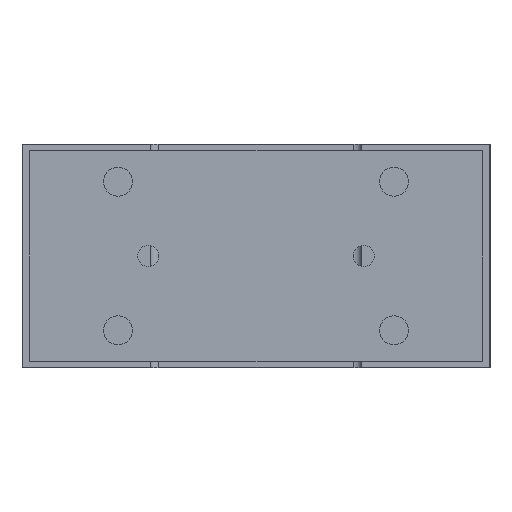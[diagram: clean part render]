
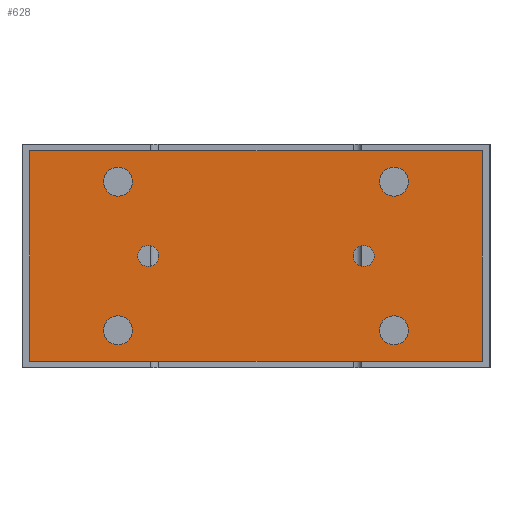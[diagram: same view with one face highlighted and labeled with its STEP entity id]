
A CAD part, left-side view. The second image highlights one B-rep face of the part: STEP entity #628.
In plain terms, the highlighted planar face has unit normal (-1, 0, 0).
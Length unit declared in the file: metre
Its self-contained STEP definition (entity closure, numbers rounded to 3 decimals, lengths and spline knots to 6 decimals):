
#628 = ADVANCED_FACE( '', ( #1398, #1399, #1400, #1401, #1402, #1403, #1404 ), #1405, .T. );
#1398 = FACE_BOUND( '', #2198, .T. );
#1399 = FACE_BOUND( '', #2199, .T. );
#1400 = FACE_BOUND( '', #2200, .T. );
#1401 = FACE_BOUND( '', #2201, .T. );
#1402 = FACE_BOUND( '', #2202, .T. );
#1403 = FACE_BOUND( '', #2203, .T. );
#1404 = FACE_OUTER_BOUND( '', #2204, .T. );
#1405 = PLANE( '', #2205 );
#2198 = EDGE_LOOP( '', ( #3689 ) );
#2199 = EDGE_LOOP( '', ( #3690 ) );
#2200 = EDGE_LOOP( '', ( #3691 ) );
#2201 = EDGE_LOOP( '', ( #3692 ) );
#2202 = EDGE_LOOP( '', ( #3693 ) );
#2203 = EDGE_LOOP( '', ( #3694 ) );
#2204 = EDGE_LOOP( '', ( #3695, #3696, #3697, #3698 ) );
#2205 = AXIS2_PLACEMENT_3D( '', #3699, #3700, #3701 );
#3689 = ORIENTED_EDGE( '', *, *, #4340, .F. );
#3690 = ORIENTED_EDGE( '', *, *, #4186, .F. );
#3691 = ORIENTED_EDGE( '', *, *, #3906, .F. );
#3692 = ORIENTED_EDGE( '', *, *, #4097, .F. );
#3693 = ORIENTED_EDGE( '', *, *, #4129, .F. );
#3694 = ORIENTED_EDGE( '', *, *, #4278, .T. );
#3695 = ORIENTED_EDGE( '', *, *, #4191, .T. );
#3696 = ORIENTED_EDGE( '', *, *, #4033, .T. );
#3697 = ORIENTED_EDGE( '', *, *, #4086, .T. );
#3698 = ORIENTED_EDGE( '', *, *, #4061, .T. );
#3699 = CARTESIAN_POINT( '', ( -0.118, -0.086, -0.0025 ) );
#3700 = DIRECTION( '', ( -1., 0., 0. ) );
#3701 = DIRECTION( '', ( 0., 0., 1. ) );
#3906 = EDGE_CURVE( '', #4542, #4542, #4543, .T. );
#4033 = EDGE_CURVE( '', #4748, #4746, #4749, .T. );
#4061 = EDGE_CURVE( '', #4792, #4790, #4793, .T. );
#4086 = EDGE_CURVE( '', #4746, #4792, #4827, .T. );
#4097 = EDGE_CURVE( '', #4845, #4845, #4846, .T. );
#4129 = EDGE_CURVE( '', #4891, #4891, #4892, .T. );
#4186 = EDGE_CURVE( '', #4974, #4974, #4975, .T. );
#4191 = EDGE_CURVE( '', #4790, #4748, #4981, .T. );
#4278 = EDGE_CURVE( '', #5101, #5101, #5102, .T. );
#4340 = EDGE_CURVE( '', #5170, #5170, #5171, .T. );
#4542 = VERTEX_POINT( '', #5452 );
#4543 = CIRCLE( '', #5453, 0.0055 );
#4746 = VERTEX_POINT( '', #5773 );
#4748 = VERTEX_POINT( '', #5776 );
#4749 = LINE( '', #5777, #5778 );
#4790 = VERTEX_POINT( '', #5857 );
#4792 = VERTEX_POINT( '', #5860 );
#4793 = LINE( '', #5861, #5862 );
#4827 = LINE( '', #5903, #5904 );
#4845 = VERTEX_POINT( '', #5928 );
#4846 = CIRCLE( '', #5929, 0.0055 );
#4891 = VERTEX_POINT( '', #5983 );
#4892 = CIRCLE( '', #5984, 0.004 );
#4974 = VERTEX_POINT( '', #6151 );
#4975 = CIRCLE( '', #6152, 0.0055 );
#4981 = LINE( '', #6159, #6160 );
#5101 = VERTEX_POINT( '', #6344 );
#5102 = CIRCLE( '', #6345, 0.004 );
#5170 = VERTEX_POINT( '', #6433 );
#5171 = CIRCLE( '', #6434, 0.0055 );
#5452 = CARTESIAN_POINT( '', ( -0.118, -0.0525, -0.00875 ) );
#5453 = AXIS2_PLACEMENT_3D( '', #6627, #6628, #6629 );
#5773 = CARTESIAN_POINT( '', ( -0.118, 0.086, -0.0025 ) );
#5776 = CARTESIAN_POINT( '', ( -0.118, -0.086, -0.0025 ) );
#5777 = CARTESIAN_POINT( '', ( -0.118, -0.086, -0.0025 ) );
#5778 = VECTOR( '', #6784, 1. );
#5857 = CARTESIAN_POINT( '', ( -0.118, -0.086, -0.0825 ) );
#5860 = CARTESIAN_POINT( '', ( -0.118, 0.086, -0.0825 ) );
#5861 = CARTESIAN_POINT( '', ( -0.118, 0.086, -0.0825 ) );
#5862 = VECTOR( '', #6824, 1. );
#5903 = CARTESIAN_POINT( '', ( -0.118, 0.086, -0.0025 ) );
#5904 = VECTOR( '', #6865, 1. );
#5928 = CARTESIAN_POINT( '', ( -0.118, 0.0525, -0.00875 ) );
#5929 = AXIS2_PLACEMENT_3D( '', #6875, #6876, #6877 );
#5983 = CARTESIAN_POINT( '', ( -0.118, -0.037, -0.0425 ) );
#5984 = AXIS2_PLACEMENT_3D( '', #6917, #6918, #6919 );
#6151 = CARTESIAN_POINT( '', ( -0.118, 0.0525, -0.06525 ) );
#6152 = AXIS2_PLACEMENT_3D( '', #6969, #6970, #6971 );
#6159 = CARTESIAN_POINT( '', ( -0.118, -0.086, -0.0825 ) );
#6160 = VECTOR( '', #6976, 1. );
#6344 = CARTESIAN_POINT( '', ( -0.118, 0.037, -0.0425 ) );
#6345 = AXIS2_PLACEMENT_3D( '', #7068, #7069, #7070 );
#6433 = CARTESIAN_POINT( '', ( -0.118, -0.0525, -0.06525 ) );
#6434 = AXIS2_PLACEMENT_3D( '', #7106, #7107, #7108 );
#6627 = CARTESIAN_POINT( '', ( -0.118, -0.0525, -0.01425 ) );
#6628 = DIRECTION( '', ( -1., 0., 0. ) );
#6629 = DIRECTION( '', ( 0., 0., 1. ) );
#6784 = DIRECTION( '', ( 0., 1., 0. ) );
#6824 = DIRECTION( '', ( 0., -1., 0. ) );
#6865 = DIRECTION( '', ( 0., 0., -1. ) );
#6875 = CARTESIAN_POINT( '', ( -0.118, 0.0525, -0.01425 ) );
#6876 = DIRECTION( '', ( -1., 0., 0. ) );
#6877 = DIRECTION( '', ( 0., 0., 1. ) );
#6917 = CARTESIAN_POINT( '', ( -0.118, -0.041, -0.0425 ) );
#6918 = DIRECTION( '', ( -1., 0., 0. ) );
#6919 = DIRECTION( '', ( 0., 1., 0. ) );
#6969 = CARTESIAN_POINT( '', ( -0.118, 0.0525, -0.07075 ) );
#6970 = DIRECTION( '', ( -1., 0., 0. ) );
#6971 = DIRECTION( '', ( 0., 0., 1. ) );
#6976 = DIRECTION( '', ( 0., 0., 1. ) );
#7068 = CARTESIAN_POINT( '', ( -0.118, 0.041, -0.0425 ) );
#7069 = DIRECTION( '', ( 1., 0., 0. ) );
#7070 = DIRECTION( '', ( 0., -1., 0. ) );
#7106 = CARTESIAN_POINT( '', ( -0.118, -0.0525, -0.07075 ) );
#7107 = DIRECTION( '', ( -1., 0., 0. ) );
#7108 = DIRECTION( '', ( 0., 0., 1. ) );
